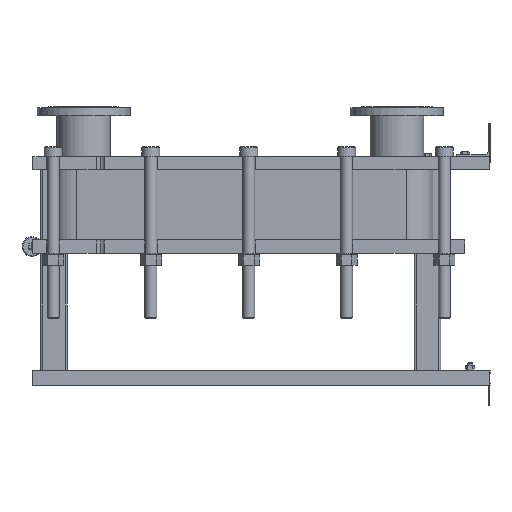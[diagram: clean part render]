
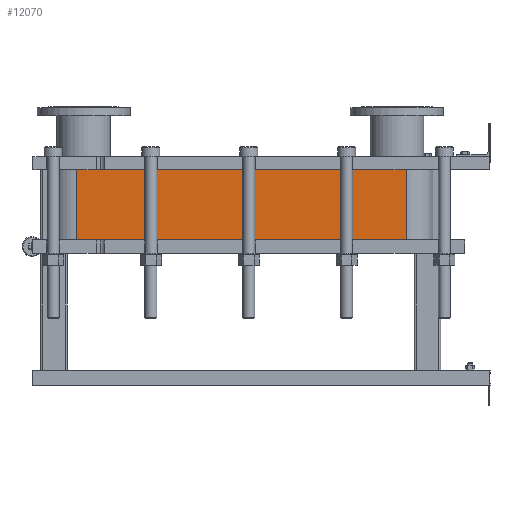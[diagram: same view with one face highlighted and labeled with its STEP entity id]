
A CAD part, left-side view. The second image highlights one B-rep face of the part: STEP entity #12070.
In plain terms, the highlighted planar face has unit normal (-1, 0, 0).
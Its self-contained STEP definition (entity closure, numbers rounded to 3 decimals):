
#1064=LINE('',#21140,#2164);
#1065=LINE('',#21144,#2165);
#1066=LINE('',#21146,#2166);
#1067=LINE('',#21147,#2167);
#2164=VECTOR('',#15790,10.);
#2165=VECTOR('',#15795,10.);
#2166=VECTOR('',#15796,10.);
#2167=VECTOR('',#15797,10.);
#3304=FACE_OUTER_BOUND('',#4091,.T.);
#4091=EDGE_LOOP('',(#9793,#9794,#9795,#9796));
#5677=VERTEX_POINT('',#21137);
#5678=VERTEX_POINT('',#21139);
#5679=VERTEX_POINT('',#21143);
#5680=VERTEX_POINT('',#21145);
#7118=EDGE_CURVE('',#5678,#5677,#1064,.T.);
#7120=EDGE_CURVE('',#5677,#5679,#1065,.T.);
#7121=EDGE_CURVE('',#5680,#5679,#1066,.T.);
#7122=EDGE_CURVE('',#5680,#5678,#1067,.T.);
#9793=ORIENTED_EDGE('',*,*,#7120,.T.);
#9794=ORIENTED_EDGE('',*,*,#7121,.F.);
#9795=ORIENTED_EDGE('',*,*,#7122,.T.);
#9796=ORIENTED_EDGE('',*,*,#7118,.T.);
#11441=PLANE('',#13191);
#12070=ADVANCED_FACE('',(#3304),#11441,.T.);
#13191=AXIS2_PLACEMENT_3D('',#21142,#15793,#15794);
#15790=DIRECTION('',(0.,0.,-1.));
#15793=DIRECTION('center_axis',(-1.,0.,0.));
#15794=DIRECTION('ref_axis',(0.,1.,0.));
#15795=DIRECTION('',(0.,-1.,0.));
#15796=DIRECTION('',(0.,0.,-1.));
#15797=DIRECTION('',(0.,1.,0.));
#21137=CARTESIAN_POINT('',(-248.152,1243.818,-210.45));
#21139=CARTESIAN_POINT('',(-248.152,1243.818,0.));
#21140=CARTESIAN_POINT('',(-248.152,1243.818,0.));
#21142=CARTESIAN_POINT('Origin',(-248.152,251.818,0.));
#21143=CARTESIAN_POINT('',(-248.152,251.818,-210.45));
#21144=CARTESIAN_POINT('',(-248.152,499.818,-210.45));
#21145=CARTESIAN_POINT('',(-248.152,251.818,0.));
#21146=CARTESIAN_POINT('',(-248.152,251.818,0.));
#21147=CARTESIAN_POINT('',(-248.152,251.818,0.));
